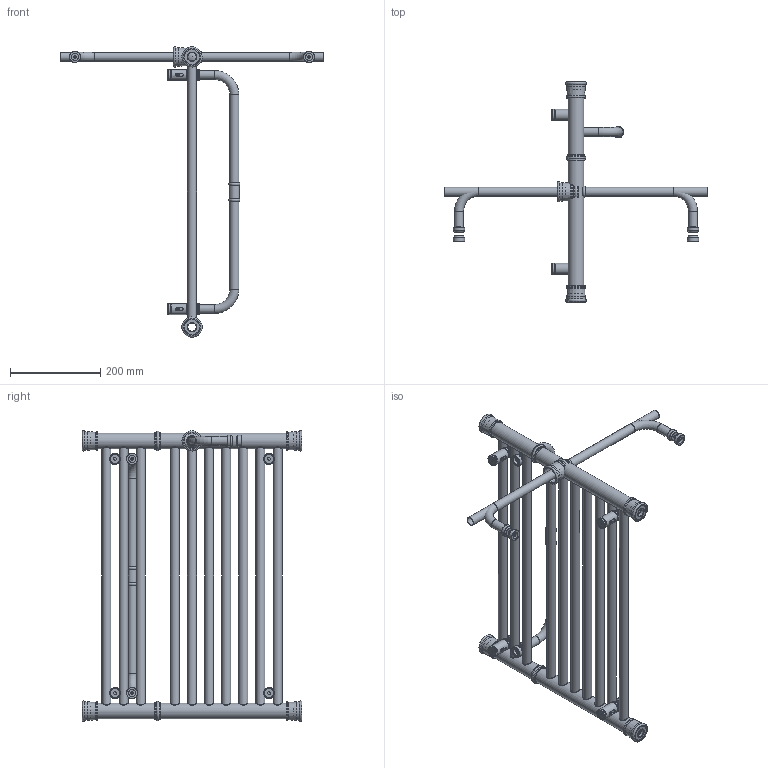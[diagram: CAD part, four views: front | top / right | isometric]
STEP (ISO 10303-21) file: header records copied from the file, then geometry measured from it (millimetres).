
FILE_DESCRIPTION( ( 'Unknown' ), '1' );
FILE_NAME( 'D:/Alplast sp. j/Witryna zespoBu - Projekty/Archiwum/Grzejniki Archiwum/Projekty/DESIGN PROGRAM/RETRO/Retro A1-600.stp', 'Unknown', ( 'Unknown' ), ( 'Unknown' ), 'PSStep 10.1', 'Unknown', ' ' );
FILE_SCHEMA( ( 'AUTOMOTIVE_DESIGN { 1 0 10303 214 1 1 1 1 }' ) );
Length unit declared in the file: millimetre
Products named in the file (40): katurek z wkrêtem do mocowania do  sciany; suszarka Retro 600; mocowanie do œciany; Assem1; Katurek fi 25 v4 ; wkrêt do katurka fi 25 v4; tulejka do mocowania grzejnika v3; mocowanie do grzejnika v3; zaœlepka do mocowania do œciany; detal-v3. par; element do suszarki do mocowania; element do suszarki do mocowania-oa0; tulejka do suszarki ; tulejka do suszarki -oa1; element do suszarki do mocowania ty³; element do suszarki do mocowania ty³-oa2; suszarka 600; kolektor Retro A1; kolektor Retro A1-oa3; Kana³ Prosty Retro 600; Kana³ Prosty Retro 600-oa4; Kana³ Prosty Retro 600-oa5; Kana³ Prosty Retro 600-oa6; Kana³ Prosty Retro 600-oa7; Kana³ Prosty Retro 600-oa8; Kana³ Prosty Retro 600-oa9; Kana³ Prosty Retro 600-oa10; Kana³ Prosty Retro 600-oa11; Kana³ Prosty Retro 600-oa12; Kana³ Prosty Retro 600-oa13; Zaslepka fi 35 z gwintem ; Zaslepka fi 35 z gwintem -oa14; Zaslepka fi 35 z gwintem -oa15; Zaslepka fi 35 z gwintem -oa16; pierœcieñ ozdobny 1; pierœcieñ ozdobny 1-oa17; pierœcieñ ozdobny 1-oa18; pierœcieñ ozdobny 1-oa19; pierœcieñ na rurê fi 36 w¹ski; pierœcieñ na rurê fi 36 w¹ski-oa20
Bounding box: 584 x 488 x 644.99 mm (x, y, z)
Volume: 1636496.5 mm3; surface area: 2382637.6 mm2
Topology: 102 solids, 102 shells, 884 faces, 1776 edges, 1130 vertices
Faces by surface type: cylinder 338, plane 262, torus 189, cone 76, bspline 12, sphere 7
Full cylindrical faces by diameter (mm): 4.917 x24, 5.9 x6, 6 x27, 6.3 x6, 6.4 x6, 15.5 x6, 17.5 x6, 17.6 x31, 18.631 x8, 20 x31, 20.3 x3, 20.5 x40, 20.6 x6, 21.15 x6, 21.9 x18, 22.8 x3, 24.5 x6, 25 x21, 25.25 x6, 25.3 x6, 32 x8, 32.4 x4, 35 x12, 35.3 x4, 35.5 x8, 39 x8, 41.15 x16
Entity records: 13554 total; most frequent: CARTESIAN_POINT 5102, DIRECTION 1234, ORIENTED_EDGE 654, EDGE_LOOP 636, AXIS2_PLACEMENT_3D 613, FACE_OUTER_BOUND 485, EDGE_CURVE 327, VERTEX_POINT 324
